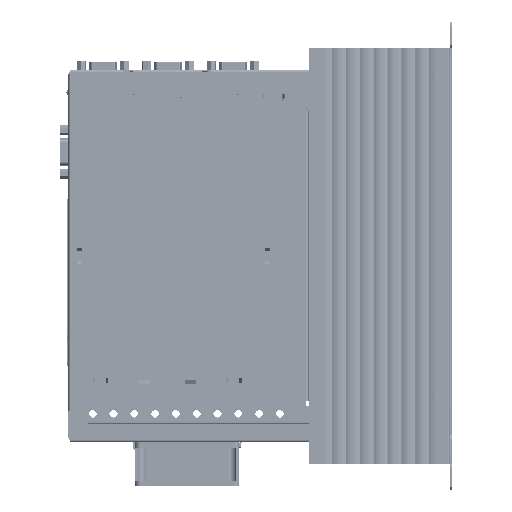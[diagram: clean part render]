
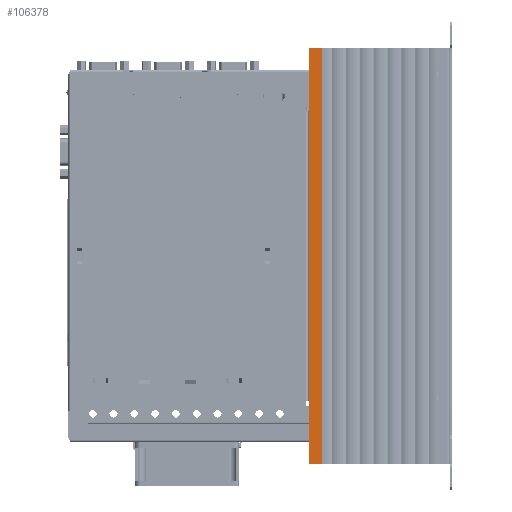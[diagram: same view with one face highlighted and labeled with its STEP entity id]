
A CAD part, left-side view. The second image highlights one B-rep face of the part: STEP entity #106378.
In plain terms, the highlighted planar face has unit normal (-1, 0, 0).
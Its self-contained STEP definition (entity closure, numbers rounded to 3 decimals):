
#97211 = VERTEX_POINT ( 'NONE', #116474 ) ;
#97213 = VERTEX_POINT ( 'NONE', #116473 ) ;
#97249 = EDGE_CURVE ( 'NONE', #97211, #97213, #116489, .T. ) ;
#105698 = EDGE_CURVE ( 'NONE', #105699, #97213, #130857, .T. ) ;
#105699 = VERTEX_POINT ( 'NONE', #130852 ) ;
#106359 = EDGE_CURVE ( 'NONE', #106361, #105699, #133354, .T. ) ;
#106361 = VERTEX_POINT ( 'NONE', #133350 ) ;
#106378 = ADVANCED_FACE ( 'NONE', ( #133389 ), #133416, .T. ) ;
#106379 = EDGE_LOOP ( 'NONE', ( #106387, #106389, #106397, #106444 ) ) ;
#106387 = ORIENTED_EDGE ( 'NONE', *, *, #97249, .F. ) ;
#106389 = ORIENTED_EDGE ( 'NONE', *, *, #106391, .F. ) ;
#106391 = EDGE_CURVE ( 'NONE', #106361, #97211, #133433, .T. ) ;
#106397 = ORIENTED_EDGE ( 'NONE', *, *, #106359, .T. ) ;
#106444 = ORIENTED_EDGE ( 'NONE', *, *, #105698, .T. ) ;
#116473 = CARTESIAN_POINT ( 'NONE',  ( -35., 3.5, -107.5 ) ) ;
#116474 = CARTESIAN_POINT ( 'NONE',  ( -35., -3.5, -107.5 ) ) ;
#116489 = LINE ( 'NONE', #116546, #116545 ) ;
#116544 = DIRECTION ( 'NONE',  ( 0., 1., 0. ) ) ;
#116545 = VECTOR ( 'NONE', #116544, 1000. ) ;
#116546 = CARTESIAN_POINT ( 'NONE',  ( -35., -3.5, -107.5 ) ) ;
#130852 = CARTESIAN_POINT ( 'NONE',  ( -35., 3.5, 132.5 ) ) ;
#130854 = DIRECTION ( 'NONE',  ( 0., 0., -1. ) ) ;
#130855 = VECTOR ( 'NONE', #130854, 1000. ) ;
#130856 = CARTESIAN_POINT ( 'NONE',  ( -35., 3.5, 132.5 ) ) ;
#130857 = LINE ( 'NONE', #130856, #130855 ) ;
#133350 = CARTESIAN_POINT ( 'NONE',  ( -35., -3.5, 132.5 ) ) ;
#133351 = DIRECTION ( 'NONE',  ( 0., 1., 0. ) ) ;
#133352 = VECTOR ( 'NONE', #133351, 1000. ) ;
#133353 = CARTESIAN_POINT ( 'NONE',  ( -35., 3.5, 132.5 ) ) ;
#133354 = LINE ( 'NONE', #133353, #133352 ) ;
#133389 = FACE_OUTER_BOUND ( 'NONE', #106379, .T. ) ;
#133412 = DIRECTION ( 'NONE',  ( 0., 0., 1. ) ) ;
#133413 = DIRECTION ( 'NONE',  ( -1., 0., 0. ) ) ;
#133414 = CARTESIAN_POINT ( 'NONE',  ( -35., 3.5, 132.5 ) ) ;
#133415 = AXIS2_PLACEMENT_3D ( 'NONE', #133414, #133413, #133412 ) ;
#133416 = PLANE ( 'NONE',  #133415 ) ;
#133430 = DIRECTION ( 'NONE',  ( 0., 0., -1. ) ) ;
#133431 = VECTOR ( 'NONE', #133430, 1000. ) ;
#133432 = CARTESIAN_POINT ( 'NONE',  ( -35., -3.5, 132.5 ) ) ;
#133433 = LINE ( 'NONE', #133432, #133431 ) ;
